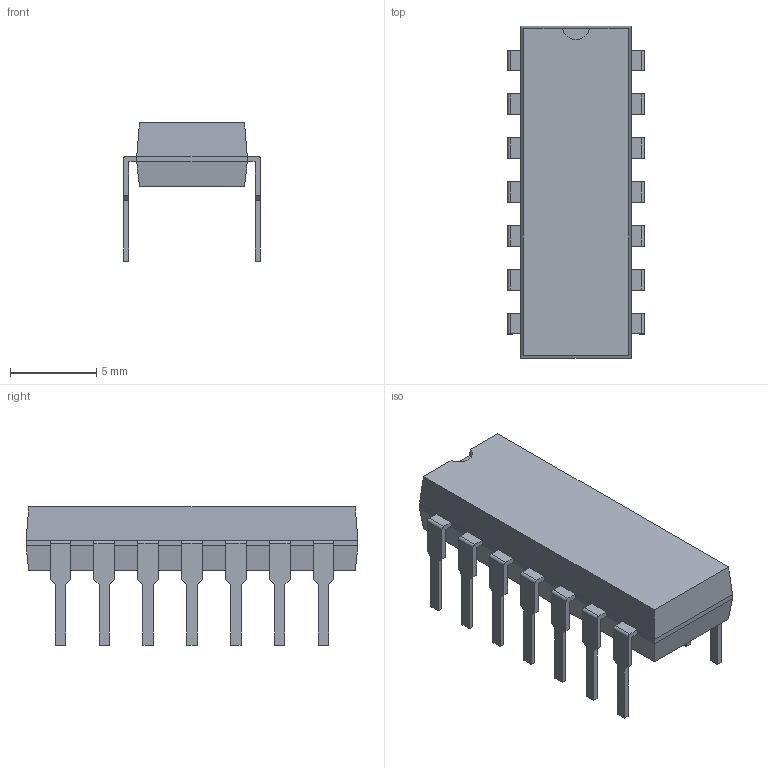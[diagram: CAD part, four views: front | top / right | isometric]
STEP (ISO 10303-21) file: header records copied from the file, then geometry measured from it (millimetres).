
FILE_DESCRIPTION(('FreeCAD Model'),'2;1');
FILE_NAME('/var/www/3D/0T/2136685.2.1.stp','2023-08-02T01:32:35',( 'Author'),(''),'Open CASCADE STEP processor 6.9','FreeCAD','Unknown' );
FILE_SCHEMA(('AUTOMOTIVE_DESIGN { 1 0 10303 214 1 1 1 1 }'));
Length unit declared in the file: millimetre
Products named in the file (3): ASSEMBLY; Body; PinsArrayLR
Assembly tree (2 placements, depth 2):
  ASSEMBLY
    Body
    PinsArrayLR
Bounding box: 7.92 x 19.22 x 8 mm (x, y, z)
Volume: 463.3 mm3; surface area: 637.3 mm2
Topology: 15 solids, 15 shells, 198 faces, 496 edges, 328 vertices
Faces by surface type: plane 183, cylinder 15
Entity records: 12465 total; most frequent: CARTESIAN_POINT 2119, DIRECTION 1904, LINE 1420, VECTOR 1420, ORIENTED_EDGE 992, PCURVE 992, DEFINITIONAL_REPRESENTATION 992, EDGE_CURVE 496
